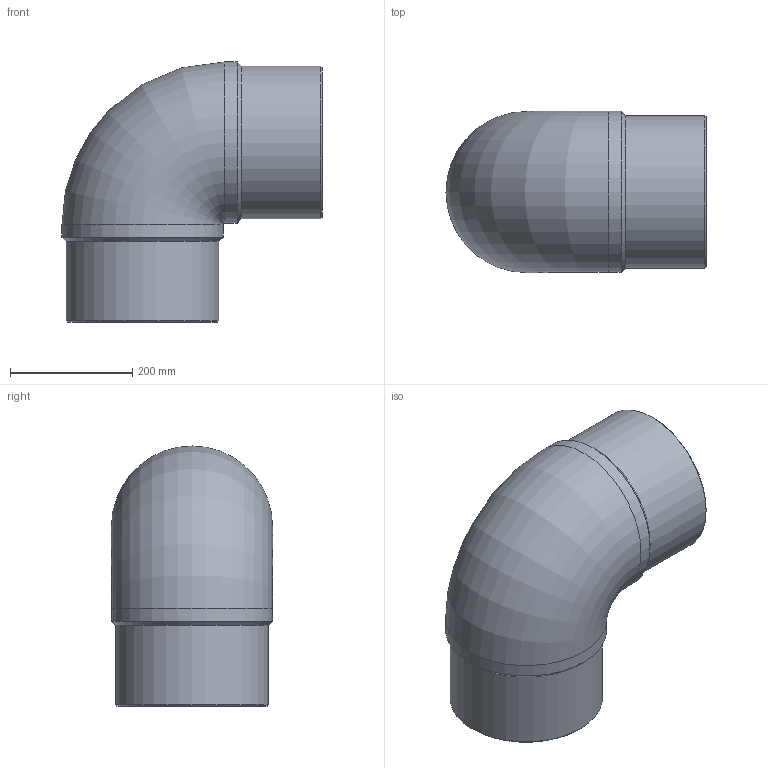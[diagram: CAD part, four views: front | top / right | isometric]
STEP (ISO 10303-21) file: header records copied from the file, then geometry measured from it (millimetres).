
FILE_DESCRIPTION(/* description */ ('Unknown'),/* implementation_level */ '2;1');
FILE_NAME(/* name */ 'G9P250B',/* time_stamp */ '2021-11-15T10:07:10+01:00',/* author */ ('Unknown'),/* organization */ ('Unknown'),/* preprocessor_version */ 'ST-DEVELOPER v16.7',/* originating_system */ 'Solid Edge',/* authorisation */ 'Unknown');
FILE_SCHEMA (('AUTOMOTIVE_DESIGN {1 0 10303 214 3 1 1}'));
Length unit declared in the file: millimetre
Products named in the file (1): G9P250B
Bounding box: 426 x 264 x 426 mm (x, y, z)
Volume: 7396708.2 mm3; surface area: 821826.7 mm2
Topology: 1 solids, 1 shells, 14 faces, 34 edges, 22 vertices
Faces by surface type: cylinder 6, cone 4, plane 2, torus 2
Full cylindrical faces by diameter (mm): 220.4 x2, 250 x2, 264 x2
Entity records: 378 total; most frequent: CARTESIAN_POINT 78, DIRECTION 60, ORIENTED_EDGE 38, AXIS2_PLACEMENT_3D 30, EDGE_LOOP 27, FACE_BOUND 27, EDGE_CURVE 19, VERTEX_POINT 18
